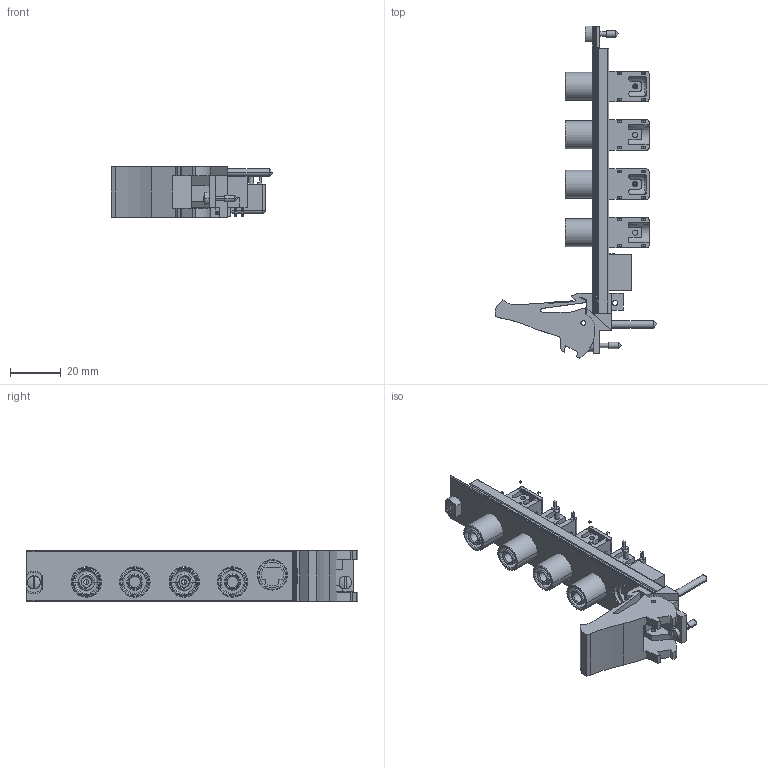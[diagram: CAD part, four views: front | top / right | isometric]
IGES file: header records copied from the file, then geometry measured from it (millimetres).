
Start section:  PTC IGES file: cu_pxi-4072.igs
Global section: file name: cu_pxi-4072.igs; native system: Pro/ENGINEER by Parametric Technology Corporation; preprocessor: 2006080; author: jjorden; organization: Unknown; date: 091207.150724; units: inch
Bounding box: 63.53 x 130.5 x 20.03 mm (x, y, z)
Surface area: 28050.8 mm2 (no closed solid volume)
Topology: 0 solids, 0 shells, 832 faces, 4160 edges, 4152 vertices
Faces by surface type: bspline 472, revolution 288, extrusion 72
